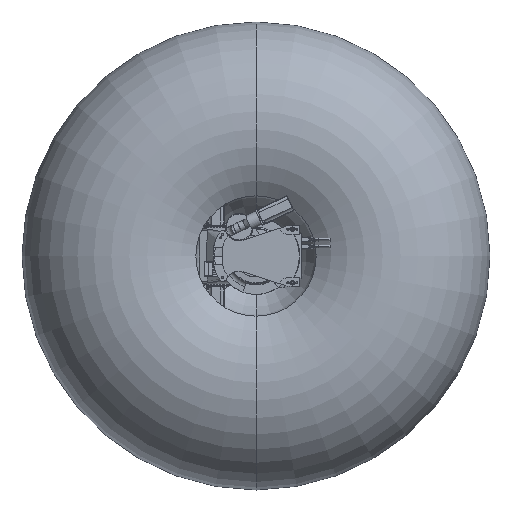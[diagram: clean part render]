
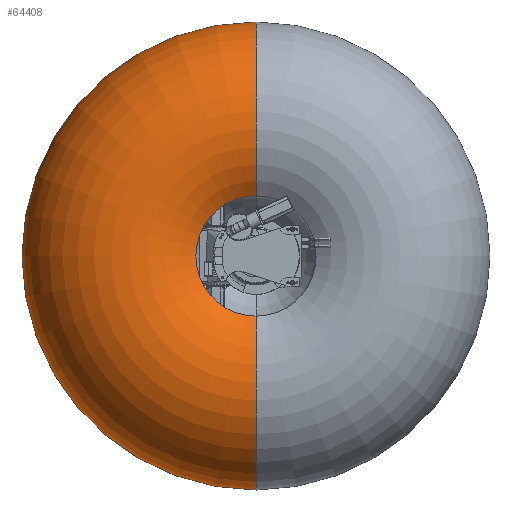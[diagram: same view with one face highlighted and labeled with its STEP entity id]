
A CAD part, front view. The second image highlights one B-rep face of the part: STEP entity #64408.
In plain terms, the highlighted toroidal (fillet/blend) face has major radius 1474.22 mm and minor radius 1230.66 mm.
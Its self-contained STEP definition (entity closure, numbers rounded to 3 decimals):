
#13329 = CARTESIAN_POINT ( 'NONE',  ( 0., 459.142, -695.091 ) ) ;
#13343 = CARTESIAN_POINT ( 'NONE',  ( 0., 459.142, 695.091 ) ) ;
#13345 = DIRECTION ( 'NONE',  ( 0., 0., -1. ) ) ;
#13346 = DIRECTION ( 'NONE',  ( 1., 0., 0. ) ) ;
#13347 = CARTESIAN_POINT ( 'NONE',  ( 0., 1411.76, 1474.222 ) ) ;
#13349 = AXIS2_PLACEMENT_3D ( 'NONE', #13347, #13346, #13345 ) ;
#13351 = CIRCLE ( 'NONE', #13349, 1230.66 ) ;
#13357 = CARTESIAN_POINT ( 'NONE',  ( 0., 1341.365, 2702.867 ) ) ;
#13358 = CARTESIAN_POINT ( 'NONE',  ( 0., 1341.365, -2702.867 ) ) ;
#13392 = DIRECTION ( 'NONE',  ( 0., 0., -1. ) ) ;
#13394 = DIRECTION ( 'NONE',  ( 0., -1., 0. ) ) ;
#13395 = AXIS2_PLACEMENT_3D ( 'NONE', #13403, #13394, #13392 ) ;
#13396 = TOROIDAL_SURFACE ( 'NONE', #13395, 1474.222, 1230.66 ) ;
#13403 = CARTESIAN_POINT ( 'NONE',  ( 0., 1411.76, 0. ) ) ;
#13443 = FACE_OUTER_BOUND ( 'NONE', #64410, .T. ) ;
#13445 = DIRECTION ( 'NONE',  ( 0., 0., -1. ) ) ;
#13446 = DIRECTION ( 'NONE',  ( 0., -1., 0. ) ) ;
#13448 = CARTESIAN_POINT ( 'NONE',  ( 0., 1341.365, 0. ) ) ;
#13449 = AXIS2_PLACEMENT_3D ( 'NONE', #13448, #13446, #13445 ) ;
#13450 = CIRCLE ( 'NONE', #13449, 2702.867 ) ;
#13455 = DIRECTION ( 'NONE',  ( 0., 0., 1. ) ) ;
#13457 = DIRECTION ( 'NONE',  ( -1., 0., 0. ) ) ;
#13458 = CARTESIAN_POINT ( 'NONE',  ( 0., 1411.76, -1474.222 ) ) ;
#13460 = AXIS2_PLACEMENT_3D ( 'NONE', #13458, #13457, #13455 ) ;
#13462 = CIRCLE ( 'NONE', #13460, 1230.66 ) ;
#13640 = DIRECTION ( 'NONE',  ( 0., 0., -1. ) ) ;
#13642 = DIRECTION ( 'NONE',  ( 0., -1., 0. ) ) ;
#13644 = CARTESIAN_POINT ( 'NONE',  ( 0., 459.142, 0. ) ) ;
#13646 = AXIS2_PLACEMENT_3D ( 'NONE', #13644, #13642, #13640 ) ;
#13648 = CIRCLE ( 'NONE', #13646, 695.091 ) ;
#64388 = VERTEX_POINT ( 'NONE', #13358 ) ;
#64391 = VERTEX_POINT ( 'NONE', #13357 ) ;
#64394 = EDGE_CURVE ( 'NONE', #64391, #64395, #13351, .T. ) ;
#64395 = VERTEX_POINT ( 'NONE', #13343 ) ;
#64398 = VERTEX_POINT ( 'NONE', #13329 ) ;
#64401 = EDGE_CURVE ( 'NONE', #64388, #64398, #13462, .T. ) ;
#64406 = EDGE_CURVE ( 'NONE', #64391, #64388, #13450, .T. ) ;
#64408 = ADVANCED_FACE ( 'NONE', ( #13443 ), #13396, .T. ) ;
#64410 = EDGE_LOOP ( 'NONE', ( #64411, #64412, #64510, #64512 ) ) ;
#64411 = ORIENTED_EDGE ( 'NONE', *, *, #64394, .F. ) ;
#64412 = ORIENTED_EDGE ( 'NONE', *, *, #64406, .T. ) ;
#64454 = EDGE_CURVE ( 'NONE', #64395, #64398, #13648, .T. ) ;
#64510 = ORIENTED_EDGE ( 'NONE', *, *, #64401, .T. ) ;
#64512 = ORIENTED_EDGE ( 'NONE', *, *, #64454, .F. ) ;
